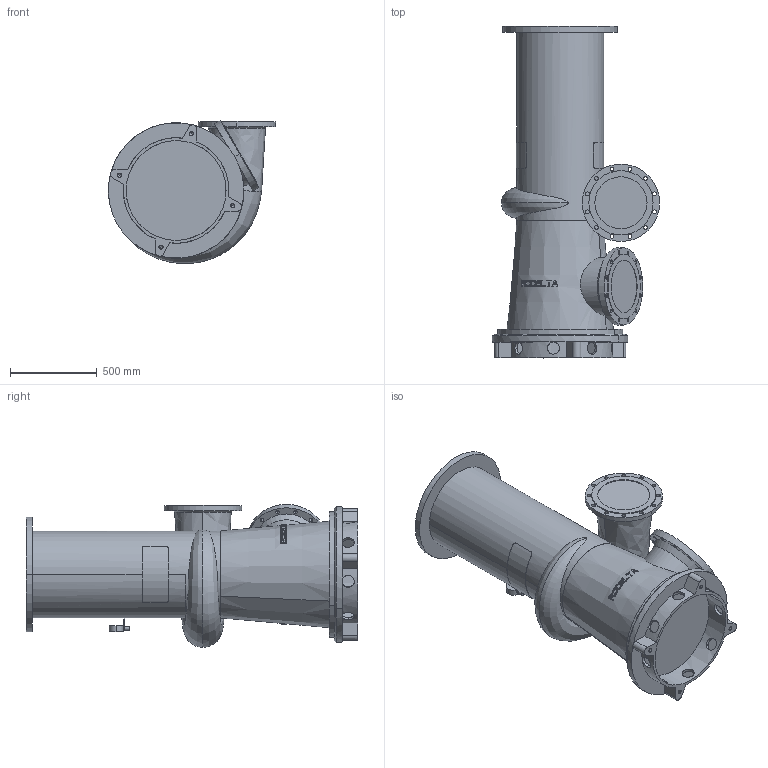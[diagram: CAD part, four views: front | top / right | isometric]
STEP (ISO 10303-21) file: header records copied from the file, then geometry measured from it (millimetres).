
FILE_DESCRIPTION((''),'2;1');
FILE_NAME('12-510_ASM','2024-08-05T',('Lyritlocal'),(''),'PRO/ENGINEER BY PARAMETRIC TECHNOLOGY CORPORATION, 2016360','PRO/ENGINEER BY PARAMETRIC TECHNOLOGY CORPORATION, 2016360','');
FILE_SCHEMA(('CONFIG_CONTROL_DESIGN'));
Length unit declared in the file: millimetre
Products named in the file (3): 12-510; 12-510_VOET; 12-510_ASM
Assembly tree (2 placements, depth 2):
  12-510_ASM
    12-510
    12-510_VOET
Bounding box: 962.5 x 1910 x 823.76 mm (x, y, z)
Volume: 485964673.1 mm3; surface area: 6451901.8 mm2
Topology: 2 solids, 6 shells, 503 faces, 1366 edges, 900 vertices
Faces by surface type: plane 323, cylinder 138, cone 36, bspline 6
Entity records: 18234 total; most frequent: CARTESIAN_POINT 5945, ORIENTED_EDGE 2700, DIRECTION 2279, EDGE_CURVE 1358, VERTEX_POINT 900, AXIS2_PLACEMENT_3D 896, EDGE_LOOP 608, FACE_OUTER_BOUND 503
